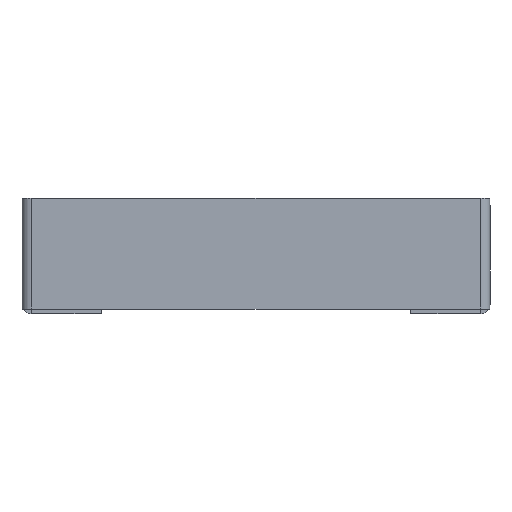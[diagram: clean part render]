
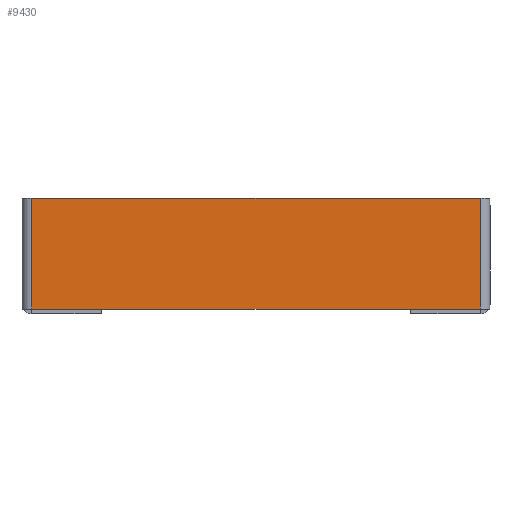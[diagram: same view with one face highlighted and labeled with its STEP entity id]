
A CAD part, front view. The second image highlights one B-rep face of the part: STEP entity #9430.
In plain terms, the highlighted planar face has unit normal (0, -1, 0).
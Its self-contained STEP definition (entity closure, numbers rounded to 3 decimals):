
#138 = CARTESIAN_POINT ( 'NONE',  ( -120., -2.5, 0. ) ) ;
#181 = VERTEX_POINT ( 'NONE', #2758 ) ;
#283 = VERTEX_POINT ( 'NONE', #5061 ) ;
#531 = PLANE ( 'NONE',  #3416 ) ;
#768 = ORIENTED_EDGE ( 'NONE', *, *, #3478, .F. ) ;
#1618 = VERTEX_POINT ( 'NONE', #2395 ) ;
#1911 = CARTESIAN_POINT ( 'NONE',  ( -120., -2.5, -58. ) ) ;
#1984 = DIRECTION ( 'NONE',  ( 0., 0., 1. ) ) ;
#2215 = EDGE_CURVE ( 'NONE', #181, #283, #8232, .T. ) ;
#2395 = CARTESIAN_POINT ( 'NONE',  ( -117.5, -2.5, -58. ) ) ;
#2412 = CARTESIAN_POINT ( 'NONE',  ( -117.5, -2.5, 0. ) ) ;
#2581 = ORIENTED_EDGE ( 'NONE', *, *, #2215, .T. ) ;
#2696 = DIRECTION ( 'NONE',  ( 0., 1., 0. ) ) ;
#2758 = CARTESIAN_POINT ( 'NONE',  ( 117.5, -2.5, -58. ) ) ;
#2904 = VERTEX_POINT ( 'NONE', #6057 ) ;
#3100 = DIRECTION ( 'NONE',  ( 1., 0., 0. ) ) ;
#3416 = AXIS2_PLACEMENT_3D ( 'NONE', #5799, #2696, #1984 ) ;
#3478 = EDGE_CURVE ( 'NONE', #181, #1618, #5912, .T. ) ;
#3954 = VECTOR ( 'NONE', #3100, 1000. ) ;
#5061 = CARTESIAN_POINT ( 'NONE',  ( 117.5, -2.5, 0. ) ) ;
#5082 = DIRECTION ( 'NONE',  ( 0., 0., 1. ) ) ;
#5799 = CARTESIAN_POINT ( 'NONE',  ( 0., -2.5, 0. ) ) ;
#5912 = LINE ( 'NONE', #1911, #8605 ) ;
#6010 = VECTOR ( 'NONE', #5082, 1000. ) ;
#6057 = CARTESIAN_POINT ( 'NONE',  ( -117.5, -2.5, 0. ) ) ;
#6289 = VECTOR ( 'NONE', #6895, 1000. ) ;
#6884 = LINE ( 'NONE', #138, #3954 ) ;
#6895 = DIRECTION ( 'NONE',  ( 0., 0., -1. ) ) ;
#7033 = FACE_OUTER_BOUND ( 'NONE', #8381, .T. ) ;
#7920 = LINE ( 'NONE', #2412, #6289 ) ;
#8058 = CARTESIAN_POINT ( 'NONE',  ( 117.5, -2.5, -58. ) ) ;
#8232 = LINE ( 'NONE', #8058, #6010 ) ;
#8381 = EDGE_LOOP ( 'NONE', ( #9263, #768, #2581, #9640 ) ) ;
#8495 = EDGE_CURVE ( 'NONE', #2904, #1618, #7920, .T. ) ;
#8605 = VECTOR ( 'NONE', #9341, 1000. ) ;
#8989 = EDGE_CURVE ( 'NONE', #2904, #283, #6884, .T. ) ;
#9263 = ORIENTED_EDGE ( 'NONE', *, *, #8495, .T. ) ;
#9341 = DIRECTION ( 'NONE',  ( -1., 0., 0. ) ) ;
#9430 = ADVANCED_FACE ( 'NONE', ( #7033 ), #531, .F. ) ;
#9640 = ORIENTED_EDGE ( 'NONE', *, *, #8989, .F. ) ;
